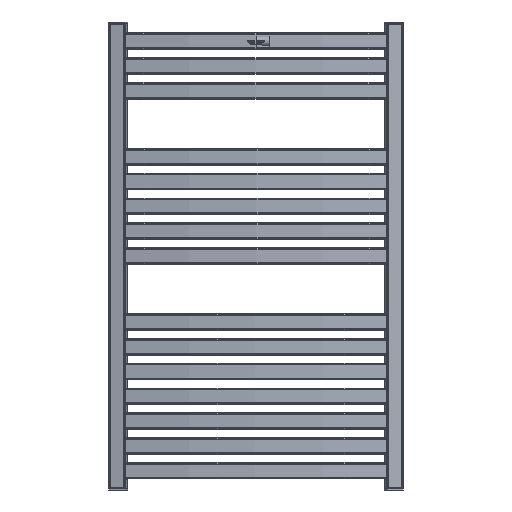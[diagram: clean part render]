
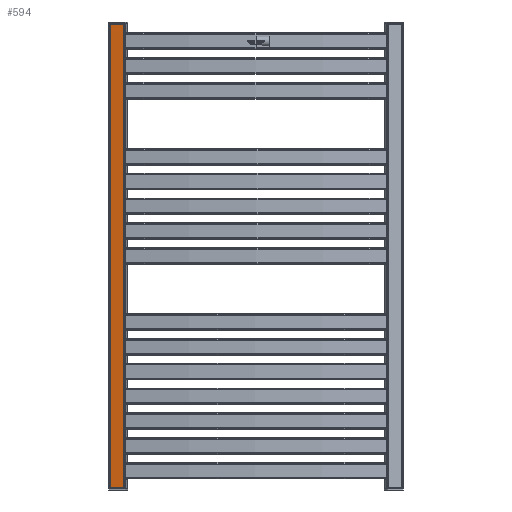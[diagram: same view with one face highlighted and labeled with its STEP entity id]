
A CAD part, front view. The second image highlights one B-rep face of the part: STEP entity #594.
In plain terms, the highlighted planar face has unit normal (-0.205, -0.979, 0) as drawn and (1, 0, 0) by its records, which use the part's own axes.
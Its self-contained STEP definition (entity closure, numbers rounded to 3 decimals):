
#594 = ADVANCED_FACE( '', ( #1217 ), #1218, .T. );
#1217 = FACE_OUTER_BOUND( '', #1883, .T. );
#1218 = PLANE( '', #1884 );
#1883 = EDGE_LOOP( '', ( #3577, #3578, #3579, #3580 ) );
#1884 = AXIS2_PLACEMENT_3D( '', #3581, #3582, #3583 );
#3577 = ORIENTED_EDGE( '', *, *, #4291, .T. );
#3578 = ORIENTED_EDGE( '', *, *, #3810, .T. );
#3579 = ORIENTED_EDGE( '', *, *, #4384, .F. );
#3580 = ORIENTED_EDGE( '', *, *, #4221, .T. );
#3581 = CARTESIAN_POINT( '', ( 15., 846., -15. ) );
#3582 = DIRECTION( '', ( 1., 0., 0. ) );
#3583 = DIRECTION( '', ( 0., 0., -1. ) );
#3810 = EDGE_CURVE( '', #4534, #4538, #4540, .T. );
#4221 = EDGE_CURVE( '', #5211, #5208, #5212, .F. );
#4291 = EDGE_CURVE( '', #5208, #4534, #5308, .T. );
#4384 = EDGE_CURVE( '', #5211, #4538, #5425, .T. );
#4534 = VERTEX_POINT( '', #5604 );
#4538 = VERTEX_POINT( '', #5609 );
#4540 = LINE( '', #5611, #5612 );
#5208 = VERTEX_POINT( '', #6487 );
#5211 = VERTEX_POINT( '', #6490 );
#5212 = LINE( '', #6491, #6492 );
#5308 = LINE( '', #6619, #6620 );
#5425 = LINE( '', #6772, #6773 );
#5604 = CARTESIAN_POINT( '', ( 15., 846., 12. ) );
#5609 = CARTESIAN_POINT( '', ( 15., 0., 12. ) );
#5611 = CARTESIAN_POINT( '', ( 15., 846., 12. ) );
#5612 = VECTOR( '', #6945, 1000. );
#6487 = CARTESIAN_POINT( '', ( 15., 846., -12. ) );
#6490 = CARTESIAN_POINT( '', ( 15., 0., -12. ) );
#6491 = CARTESIAN_POINT( '', ( 15., 846., -12. ) );
#6492 = VECTOR( '', #7528, 1000. );
#6619 = CARTESIAN_POINT( '', ( 15., 846., -15. ) );
#6620 = VECTOR( '', #7614, 1000. );
#6772 = CARTESIAN_POINT( '', ( 15., 0., -15. ) );
#6773 = VECTOR( '', #7722, 1000. );
#6945 = DIRECTION( '', ( 0., -1., 0. ) );
#7528 = DIRECTION( '', ( 0., -1., 0. ) );
#7614 = DIRECTION( '', ( 0., 0., 1. ) );
#7722 = DIRECTION( '', ( 0., 0., 1. ) );
